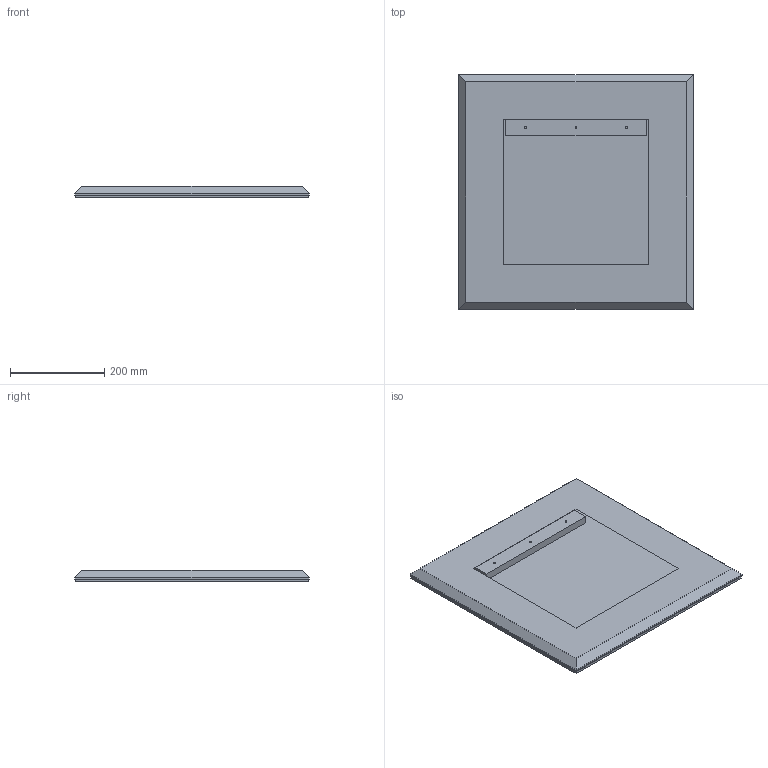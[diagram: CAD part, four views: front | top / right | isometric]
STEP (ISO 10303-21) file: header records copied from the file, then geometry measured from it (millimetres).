
FILE_DESCRIPTION (( 'STEP AP214' ), '1' );
FILE_NAME ('Dainelli_V1.STEP', '2026-03-30T09:32:20', ( '' ), ( '' ), 'SwSTEP 2.0', 'SolidWorks 2025', '' );
FILE_SCHEMA (( 'AUTOMOTIVE_DESIGN' ));
Length unit declared in the file: millimetre
Products named in the file (4): Dainelli_V1; Dainelli_CORNICE_50; Dainelli_CRISTALLO_50 (49.6); Dainelli_DISTANZIALE_50
Assembly tree (3 placements, depth 2):
  Dainelli_V1
    Dainelli_CORNICE_50
    Dainelli_CRISTALLO_50 (49.6)
    Dainelli_DISTANZIALE_50
Bounding box: 498 x 498 x 25 mm (x, y, z)
Volume: 4134287.5 mm3; surface area: 878896.7 mm2
Topology: 3 solids, 3 shells, 32 faces, 74 edges, 48 vertices
Faces by surface type: plane 26, cylinder 6
Entity records: 1035 total; most frequent: DIRECTION 162, CARTESIAN_POINT 160, ORIENTED_EDGE 148, EDGE_CURVE 74, LINE 62, VECTOR 62, AXIS2_PLACEMENT_3D 50, VERTEX_POINT 48
